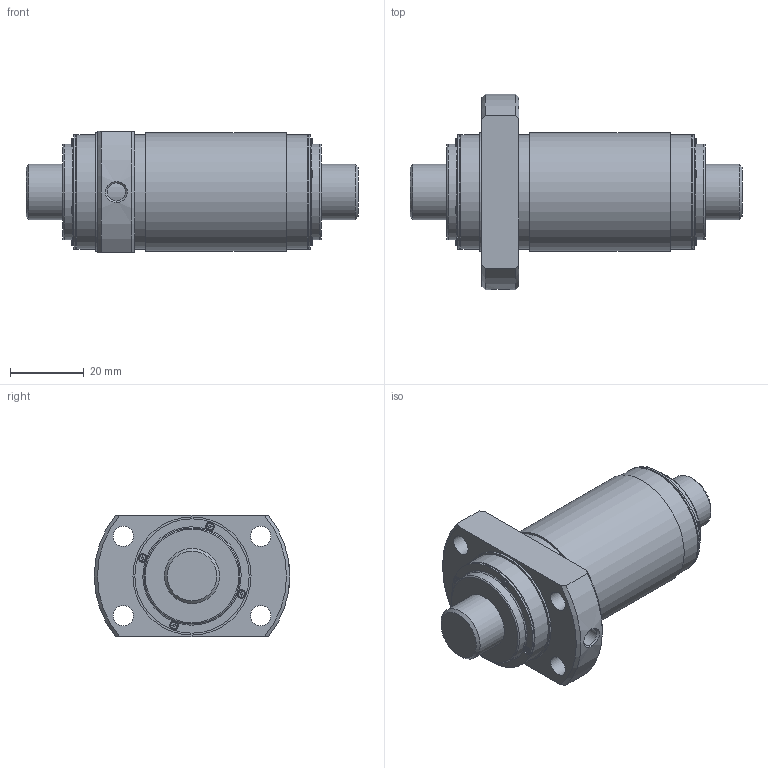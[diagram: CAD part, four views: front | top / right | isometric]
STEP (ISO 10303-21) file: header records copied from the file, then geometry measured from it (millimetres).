
FILE_DESCRIPTION(/* description */ ('STEP AP203'),/* implementation_level */ '2;1');
FILE_NAME(/* name */ 'WTF1530-3ZZ+90LC7T_000_rev',/* time_stamp */ '2025-06-11T06:39:19+02:00',/* author */ ('License CC BY-ND 4.0'),/* organization */ ('CADENAS'),/* preprocessor_version */ 'ST-DEVELOPER v19.3',/* originating_system */ 'PARTsolutions',/* authorisation */ ' ');
FILE_SCHEMA (('CONFIG_CONTROL_DESIGN'));
Length unit declared in the file: millimetre
Products named in the file (3): WTF1530-3ZZ+90LC7T_000_rev; WTF1530-30ZZ0 Shaft; WTF1530-3ZZ Nut
Assembly tree (2 placements, depth 2):
  WTF1530-3ZZ+90LC7T_000_rev
    WTF1530-30ZZ0 Shaft
    WTF1530-3ZZ Nut
Bounding box: 90 x 53 x 33 mm (x, y, z)
Volume: 64306.1 mm3; surface area: 19014.5 mm2
Topology: 2 solids, 2 shells, 206 faces, 539 edges, 354 vertices
Faces by surface type: plane 127, cylinder 58, torus 12, cone 9
Full cylindrical faces by diameter (mm): 2.24 x8, 4.917 x1, 5.5 x4, 15 x2, 26 x2, 31 x5, 32 x2
Entity records: 6151 total; most frequent: CARTESIAN_POINT 1115, DIRECTION 1028, ORIENTED_EDGE 974, EDGE_CURVE 487, AXIS2_PLACEMENT_3D 350, VERTEX_POINT 343, LINE 328, VECTOR 328
